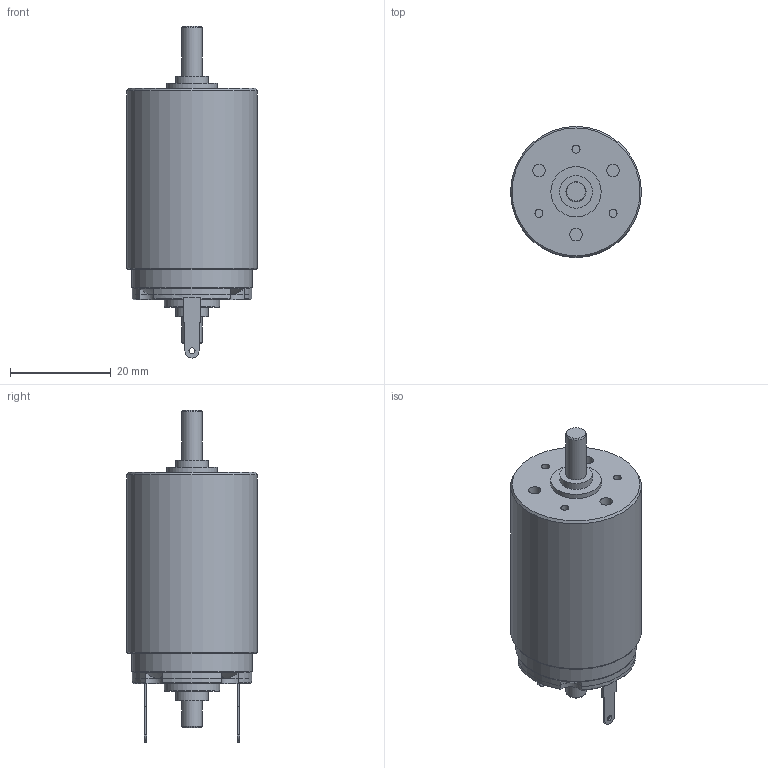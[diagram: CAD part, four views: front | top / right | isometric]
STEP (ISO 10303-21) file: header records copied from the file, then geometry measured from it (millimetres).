
FILE_DESCRIPTION(/* description */ (''),/* implementation_level */ '2;1');
FILE_NAME(/* name */ '2642.CR.stp',/* time_stamp */ '2012-11-06T13:30:16+01:00',/* author */ ('DR. FRITZ FAULHABER GmbH & Co. KG'),/* organization */ ('DR. FRITZ FAULHABER GmbH & Co. KG'),/* preprocessor_version */ 'ST-DEVELOPER v11',/* originating_system */ 'SIEMENS PLM Software NX 7.5',/* authorisation */ '');
FILE_SCHEMA (('AUTOMOTIVE_DESIGN { 1 0 10303 214 1 1 1 1 }'));
Length unit declared in the file: millimetre
Products named in the file (1): 2642.CR
Bounding box: 26 x 26 x 66 mm (x, y, z)
Volume: 22246.7 mm3; surface area: 5250.8 mm2
Topology: 1 solids, 1 shells, 114 faces, 270 edges, 175 vertices
Faces by surface type: plane 49, cylinder 43, cone 16, sphere 6
Full cylindrical faces by diameter (mm): 1.2 x2, 1.41 x2, 1.6 x3, 1.8 x4, 2.5 x3, 4 x2, 6.5 x2, 10 x1, 11 x1, 20.8 x1, 23.8 x1, 24 x1, 26 x1
Entity records: 3178 total; most frequent: CARTESIAN_POINT 648, DIRECTION 548, ORIENTED_EDGE 448, AXIS2_PLACEMENT_3D 225, EDGE_CURVE 224, EDGE_LOOP 171, VERTEX_POINT 165, ADVANCED_FACE 114
